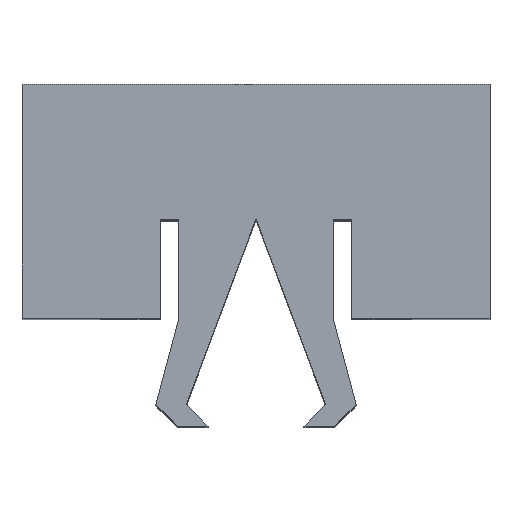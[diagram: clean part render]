
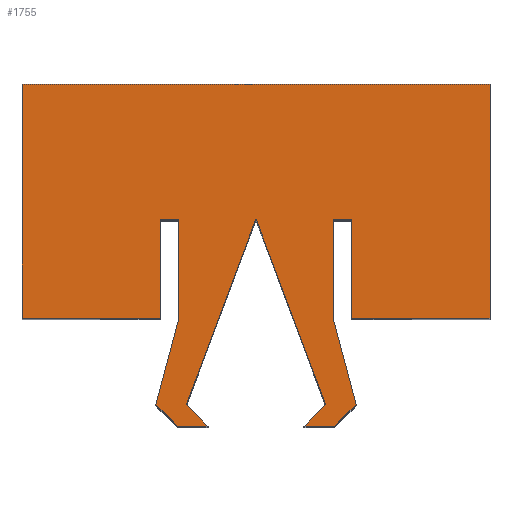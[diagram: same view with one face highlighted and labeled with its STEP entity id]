
A CAD part, top view. The second image highlights one B-rep face of the part: STEP entity #1755.
In plain terms, the highlighted planar face has unit normal (0, 0, 1).
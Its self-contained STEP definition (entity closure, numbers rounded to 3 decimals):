
#121=FACE_OUTER_BOUND('',#213,.T.);
#213=EDGE_LOOP('',(#1549,#1550,#1551,#1552,#1553,#1554,#1555,#1556,#1557,
#1558,#1559,#1560,#1561,#1562,#1563,#1564,#1565,#1566,#1567,#1568,#1569,
#1570));
#259=LINE('',#2390,#497);
#299=LINE('',#2474,#537);
#304=LINE('',#2483,#542);
#308=LINE('',#2491,#546);
#310=LINE('',#2495,#548);
#312=LINE('',#2499,#550);
#314=LINE('',#2503,#552);
#316=LINE('',#2507,#554);
#317=LINE('',#2509,#555);
#360=LINE('',#2601,#598);
#364=LINE('',#2609,#602);
#404=LINE('',#2693,#642);
#409=LINE('',#2702,#647);
#411=LINE('',#2706,#649);
#413=LINE('',#2710,#651);
#415=LINE('',#2714,#653);
#417=LINE('',#2718,#655);
#418=LINE('',#2720,#656);
#422=LINE('',#2729,#660);
#424=LINE('',#2732,#662);
#426=LINE('',#2735,#664);
#452=LINE('',#2786,#690);
#497=VECTOR('',#1935,10.);
#537=VECTOR('',#2011,10.);
#542=VECTOR('',#2018,10.);
#546=VECTOR('',#2026,10.);
#548=VECTOR('',#2030,10.);
#550=VECTOR('',#2034,10.);
#552=VECTOR('',#2038,10.);
#554=VECTOR('',#2042,10.);
#555=VECTOR('',#2045,10.);
#598=VECTOR('',#2110,10.);
#602=VECTOR('',#2118,10.);
#642=VECTOR('',#2192,10.);
#647=VECTOR('',#2199,10.);
#649=VECTOR('',#2203,10.);
#651=VECTOR('',#2207,10.);
#653=VECTOR('',#2211,10.);
#655=VECTOR('',#2215,10.);
#656=VECTOR('',#2218,10.);
#660=VECTOR('',#2224,10.);
#662=VECTOR('',#2228,10.);
#664=VECTOR('',#2232,10.);
#690=VECTOR('',#2286,10.);
#729=VERTEX_POINT('',#2387);
#730=VERTEX_POINT('',#2389);
#755=VERTEX_POINT('',#2471);
#756=VERTEX_POINT('',#2473);
#759=VERTEX_POINT('',#2481);
#761=VERTEX_POINT('',#2489);
#762=VERTEX_POINT('',#2493);
#763=VERTEX_POINT('',#2497);
#764=VERTEX_POINT('',#2501);
#765=VERTEX_POINT('',#2505);
#802=VERTEX_POINT('',#2598);
#803=VERTEX_POINT('',#2600);
#805=VERTEX_POINT('',#2608);
#831=VERTEX_POINT('',#2690);
#832=VERTEX_POINT('',#2692);
#835=VERTEX_POINT('',#2700);
#836=VERTEX_POINT('',#2704);
#837=VERTEX_POINT('',#2708);
#838=VERTEX_POINT('',#2712);
#839=VERTEX_POINT('',#2716);
#840=VERTEX_POINT('',#2722);
#843=VERTEX_POINT('',#2727);
#901=EDGE_CURVE('',#730,#729,#259,.T.);
#943=EDGE_CURVE('',#756,#755,#299,.T.);
#948=EDGE_CURVE('',#755,#759,#304,.T.);
#952=EDGE_CURVE('',#759,#761,#308,.T.);
#954=EDGE_CURVE('',#761,#762,#310,.T.);
#956=EDGE_CURVE('',#762,#763,#312,.T.);
#958=EDGE_CURVE('',#763,#764,#314,.T.);
#960=EDGE_CURVE('',#764,#765,#316,.T.);
#961=EDGE_CURVE('',#765,#730,#317,.T.);
#1006=EDGE_CURVE('',#803,#802,#360,.T.);
#1010=EDGE_CURVE('',#805,#803,#364,.T.);
#1052=EDGE_CURVE('',#831,#832,#404,.T.);
#1057=EDGE_CURVE('',#831,#835,#409,.T.);
#1059=EDGE_CURVE('',#835,#836,#411,.T.);
#1061=EDGE_CURVE('',#836,#837,#413,.T.);
#1063=EDGE_CURVE('',#837,#838,#415,.T.);
#1065=EDGE_CURVE('',#838,#839,#417,.T.);
#1066=EDGE_CURVE('',#839,#805,#418,.T.);
#1070=EDGE_CURVE('',#843,#840,#422,.T.);
#1072=EDGE_CURVE('',#832,#843,#424,.T.);
#1074=EDGE_CURVE('',#729,#840,#426,.T.);
#1100=EDGE_CURVE('',#802,#756,#452,.T.);
#1549=ORIENTED_EDGE('',*,*,#1100,.T.);
#1550=ORIENTED_EDGE('',*,*,#943,.T.);
#1551=ORIENTED_EDGE('',*,*,#948,.T.);
#1552=ORIENTED_EDGE('',*,*,#952,.T.);
#1553=ORIENTED_EDGE('',*,*,#954,.T.);
#1554=ORIENTED_EDGE('',*,*,#956,.T.);
#1555=ORIENTED_EDGE('',*,*,#958,.T.);
#1556=ORIENTED_EDGE('',*,*,#960,.T.);
#1557=ORIENTED_EDGE('',*,*,#961,.T.);
#1558=ORIENTED_EDGE('',*,*,#901,.T.);
#1559=ORIENTED_EDGE('',*,*,#1074,.T.);
#1560=ORIENTED_EDGE('',*,*,#1070,.F.);
#1561=ORIENTED_EDGE('',*,*,#1072,.F.);
#1562=ORIENTED_EDGE('',*,*,#1052,.F.);
#1563=ORIENTED_EDGE('',*,*,#1057,.T.);
#1564=ORIENTED_EDGE('',*,*,#1059,.T.);
#1565=ORIENTED_EDGE('',*,*,#1061,.T.);
#1566=ORIENTED_EDGE('',*,*,#1063,.T.);
#1567=ORIENTED_EDGE('',*,*,#1065,.T.);
#1568=ORIENTED_EDGE('',*,*,#1066,.T.);
#1569=ORIENTED_EDGE('',*,*,#1010,.T.);
#1570=ORIENTED_EDGE('',*,*,#1006,.T.);
#1671=PLANE('',#1862);
#1755=ADVANCED_FACE('',(#121),#1671,.T.);
#1862=AXIS2_PLACEMENT_3D('',#2787,#2287,#2288);
#1935=DIRECTION('',(1.,0.,0.));
#2011=DIRECTION('',(0.351,-0.936,0.));
#2018=DIRECTION('',(-0.707,-0.707,0.));
#2026=DIRECTION('',(1.,0.,0.));
#2030=DIRECTION('',(0.707,0.707,0.));
#2034=DIRECTION('',(-0.259,0.966,0.));
#2038=DIRECTION('',(0.,1.,0.));
#2042=DIRECTION('',(1.,0.,0.));
#2045=DIRECTION('',(0.,-1.,0.));
#2110=DIRECTION('',(0.351,0.936,0.));
#2118=DIRECTION('',(-0.707,0.707,0.));
#2192=DIRECTION('',(-1.,0.,0.));
#2199=DIRECTION('',(0.,1.,0.));
#2203=DIRECTION('',(1.,0.,0.));
#2207=DIRECTION('',(0.,-1.,0.));
#2211=DIRECTION('',(-0.259,-0.966,0.));
#2215=DIRECTION('',(0.707,-0.707,0.));
#2218=DIRECTION('',(1.,0.,0.));
#2224=DIRECTION('',(1.,0.,0.));
#2228=DIRECTION('',(0.,1.,0.));
#2232=DIRECTION('',(0.,1.,0.));
#2286=DIRECTION('',(1.,0.,0.));
#2287=DIRECTION('center_axis',(0.,0.,1.));
#2288=DIRECTION('ref_axis',(1.,0.,0.));
#2387=CARTESIAN_POINT('',(5.,0.,20.));
#2389=CARTESIAN_POINT('',(2.05,0.,20.));
#2390=CARTESIAN_POINT('',(1.7,0.,20.));
#2471=CARTESIAN_POINT('',(1.488,-1.842,20.));
#2473=CARTESIAN_POINT('',(0.01,2.1,20.));
#2474=CARTESIAN_POINT('',(0.01,2.1,20.));
#2481=CARTESIAN_POINT('',(1.025,-2.306,20.));
#2483=CARTESIAN_POINT('',(1.025,-2.306,20.));
#2489=CARTESIAN_POINT('',(1.675,-2.306,20.));
#2491=CARTESIAN_POINT('',(1.675,-2.306,20.));
#2493=CARTESIAN_POINT('',(2.141,-1.84,20.));
#2495=CARTESIAN_POINT('',(2.141,-1.84,20.));
#2497=CARTESIAN_POINT('',(1.648,0.,20.));
#2499=CARTESIAN_POINT('',(1.648,0.,20.));
#2501=CARTESIAN_POINT('',(1.648,2.1,20.));
#2503=CARTESIAN_POINT('',(1.648,2.1,20.));
#2505=CARTESIAN_POINT('',(2.05,2.1,20.));
#2507=CARTESIAN_POINT('',(1.648,2.1,20.));
#2509=CARTESIAN_POINT('',(2.05,0.,20.));
#2598=CARTESIAN_POINT('',(-0.01,2.1,20.));
#2600=CARTESIAN_POINT('',(-1.488,-1.842,20.));
#2601=CARTESIAN_POINT('',(-0.01,2.1,20.));
#2608=CARTESIAN_POINT('',(-1.025,-2.306,20.));
#2609=CARTESIAN_POINT('',(-1.488,-1.842,20.));
#2690=CARTESIAN_POINT('',(-2.05,0.,20.));
#2692=CARTESIAN_POINT('',(-5.,0.,20.));
#2693=CARTESIAN_POINT('',(-2.25,0.,20.));
#2700=CARTESIAN_POINT('',(-2.05,2.1,20.));
#2702=CARTESIAN_POINT('',(-2.05,2.1,20.));
#2704=CARTESIAN_POINT('',(-1.648,2.1,20.));
#2706=CARTESIAN_POINT('',(-1.648,2.1,20.));
#2708=CARTESIAN_POINT('',(-1.648,0.,20.));
#2710=CARTESIAN_POINT('',(-1.648,0.,20.));
#2712=CARTESIAN_POINT('',(-2.141,-1.84,20.));
#2714=CARTESIAN_POINT('',(-2.141,-1.84,20.));
#2716=CARTESIAN_POINT('',(-1.675,-2.306,20.));
#2718=CARTESIAN_POINT('',(-1.675,-2.306,20.));
#2720=CARTESIAN_POINT('',(-1.025,-2.306,20.));
#2722=CARTESIAN_POINT('',(5.,5.,20.));
#2727=CARTESIAN_POINT('',(-5.,5.,20.));
#2729=CARTESIAN_POINT('',(-5.,5.,20.));
#2732=CARTESIAN_POINT('',(-5.,3.,20.));
#2735=CARTESIAN_POINT('',(5.,2.25,20.));
#2786=CARTESIAN_POINT('',(0.,2.1,20.));
#2787=CARTESIAN_POINT('Origin',(0.,0.347,
20.));
